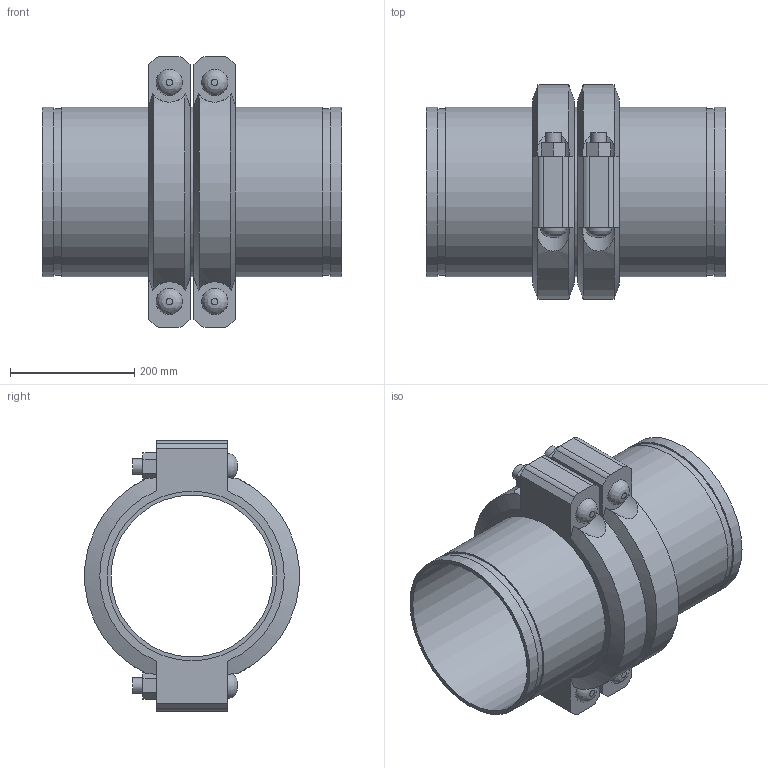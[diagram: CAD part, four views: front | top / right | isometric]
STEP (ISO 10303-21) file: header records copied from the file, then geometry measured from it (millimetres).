
FILE_DESCRIPTION(/* description */ ('VIC SS EXPANSION JOINT 2 COUPLINGS NEUTRAL STYLE 155P (OGS) (POTABLE WATER) ','CAx-IF Rec.Pracs.---Representation and Presentation of Product Manufacturing Information (PMI)---4.0---2014-10-13'),/* implementation_level */ '2;1');
FILE_NAME(/* name */ 'C:\Users\kkamble\AppData\Roaming\Autodesk\ApplicationPlugins\Victaulic.Temp\A659\Victaulic_SS_Expansion Joint_Neutral_2 Couplings_Style 155P (OGS)-Potable Water_2 Coup_Neut_10 (250).stp',/* time_stamp */ '2021-07-16T16:31:21+05:00',/* author */ ('kkamble'),/* organization */ ('Victaulic'),/* preprocessor_version */ 'ST-DEVELOPER v17.2',/* originating_system */ 'Autodesk Inventor 2019',/* authorisation */ '');
FILE_SCHEMA (('INTEGRATED_CNC_SCHEMA','AP242_MANAGED_MODEL_BASED_3D_ENGINEERING_MIM_LF { 1 0 10303 442 1 1 4 }'));
Length unit declared in the file: inch
Products named in the file (4): 155P-10.0; Nipple-10.0; Nipple-10.0_1; 077-10.0
Assembly tree (5 placements, depth 2):
  155P-10.0
    Nipple-10.0  x2
    Nipple-10.0_1
    077-10.0  x2
Bounding box: 482.6 x 344.9 x 435.1 mm (x, y, z)
Volume: 8247592.7 mm3; surface area: 1413615.3 mm2
Topology: 5 solids, 9 shells, 158 faces, 380 edges, 268 vertices
Faces by surface type: plane 90, cylinder 56, cone 8, bspline 4
Full cylindrical faces by diameter (mm): 25.4 x8, 27.432 x4, 260.35 x3, 264.16 x2, 268.275 x6, 273.05 x13
Entity records: 3025 total; most frequent: CARTESIAN_POINT 669, DIRECTION 465, ORIENTED_EDGE 410, EDGE_CURVE 205, AXIS2_PLACEMENT_3D 188, VERTEX_POINT 146, EDGE_LOOP 111, CIRCLE 96
